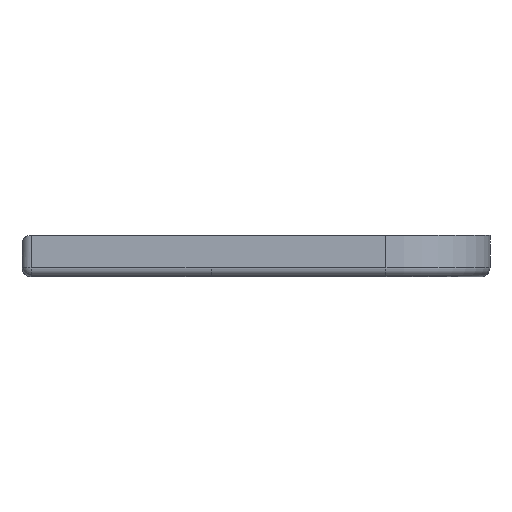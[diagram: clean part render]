
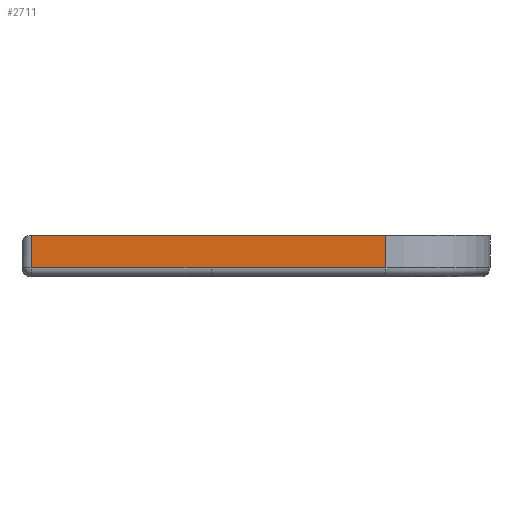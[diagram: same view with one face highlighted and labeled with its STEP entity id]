
A CAD part, left-side view. The second image highlights one B-rep face of the part: STEP entity #2711.
In plain terms, the highlighted planar face has unit normal (-1, 0, 0).
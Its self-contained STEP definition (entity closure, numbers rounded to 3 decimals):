
#127 = PLANE('',#128);
#128 = AXIS2_PLACEMENT_3D('',#129,#130,#131);
#129 = CARTESIAN_POINT('',(-57.5,30.5,2.5));
#130 = DIRECTION('',(0.,0.,-1.));
#131 = DIRECTION('',(1.,0.,0.));
#1158 = VERTEX_POINT('',#1159);
#1159 = CARTESIAN_POINT('',(-132.5,48.5,2.5));
#1185 = EDGE_CURVE('',#1158,#1186,#1188,.T.);
#1186 = VERTEX_POINT('',#1187);
#1187 = CARTESIAN_POINT('',(-132.5,11.,2.5));
#1188 = SURFACE_CURVE('',#1189,(#1193,#1200),.PCURVE_S1.);
#1189 = LINE('',#1190,#1191);
#1190 = CARTESIAN_POINT('',(-132.5,30.5,2.5));
#1191 = VECTOR('',#1192,1.);
#1192 = DIRECTION('',(0.,-1.,0.));
#1193 = PCURVE('',#127,#1194);
#1194 = DEFINITIONAL_REPRESENTATION('',(#1195),#1199);
#1195 = LINE('',#1196,#1197);
#1196 = CARTESIAN_POINT('',(-75.,0.));
#1197 = VECTOR('',#1198,1.);
#1198 = DIRECTION('',(0.,1.));
#1199 = ( GEOMETRIC_REPRESENTATION_CONTEXT(2) 
PARAMETRIC_REPRESENTATION_CONTEXT() REPRESENTATION_CONTEXT('2D SPACE',''
  ) );
#1200 = PCURVE('',#1201,#1206);
#1201 = PLANE('',#1202);
#1202 = AXIS2_PLACEMENT_3D('',#1203,#1204,#1205);
#1203 = CARTESIAN_POINT('',(-132.5,30.5,2.5));
#1204 = DIRECTION('',(1.,0.,-0.));
#1205 = DIRECTION('',(0.,0.,1.));
#1206 = DEFINITIONAL_REPRESENTATION('',(#1207),#1211);
#1207 = LINE('',#1208,#1209);
#1208 = CARTESIAN_POINT('',(0.,0.));
#1209 = VECTOR('',#1210,1.);
#1210 = DIRECTION('',(0.,1.));
#1211 = ( GEOMETRIC_REPRESENTATION_CONTEXT(2) 
PARAMETRIC_REPRESENTATION_CONTEXT() REPRESENTATION_CONTEXT('2D SPACE',''
  ) );
#1234 = CYLINDRICAL_SURFACE('',#1235,11.);
#1235 = AXIS2_PLACEMENT_3D('',#1236,#1237,#1238);
#1236 = CARTESIAN_POINT('',(-121.5,11.,8.093));
#1237 = DIRECTION('',(0.,0.,-1.));
#1238 = DIRECTION('',(1.,0.,0.));
#1918 = CYLINDRICAL_SURFACE('',#1919,1.);
#1919 = AXIS2_PLACEMENT_3D('',#1920,#1921,#1922);
#1920 = CARTESIAN_POINT('',(-131.5,30.5,-0.907));
#1921 = DIRECTION('',(0.,-1.,0.));
#1922 = DIRECTION('',(0.,0.,-1.));
#1946 = CYLINDRICAL_SURFACE('',#1947,1.);
#1947 = AXIS2_PLACEMENT_3D('',#1948,#1949,#1950);
#1948 = CARTESIAN_POINT('',(-131.5,30.5,-0.907));
#1949 = DIRECTION('',(0.,-1.,0.));
#1950 = DIRECTION('',(0.,0.,-1.));
#2711 = ADVANCED_FACE('',(#2712),#1201,.F.);
#2712 = FACE_BOUND('',#2713,.T.);
#2713 = EDGE_LOOP('',(#2714,#2715,#2743,#2766,#2789));
#2714 = ORIENTED_EDGE('',*,*,#1185,.F.);
#2715 = ORIENTED_EDGE('',*,*,#2716,.T.);
#2716 = EDGE_CURVE('',#1158,#2717,#2719,.T.);
#2717 = VERTEX_POINT('',#2718);
#2718 = CARTESIAN_POINT('',(-132.5,48.5,-0.907));
#2719 = SURFACE_CURVE('',#2720,(#2724,#2731),.PCURVE_S1.);
#2720 = LINE('',#2721,#2722);
#2721 = CARTESIAN_POINT('',(-132.5,48.5,2.5));
#2722 = VECTOR('',#2723,1.);
#2723 = DIRECTION('',(-0.,-0.,-1.));
#2724 = PCURVE('',#1201,#2725);
#2725 = DEFINITIONAL_REPRESENTATION('',(#2726),#2730);
#2726 = LINE('',#2727,#2728);
#2727 = CARTESIAN_POINT('',(0.,-18.));
#2728 = VECTOR('',#2729,1.);
#2729 = DIRECTION('',(-1.,0.));
#2730 = ( GEOMETRIC_REPRESENTATION_CONTEXT(2) 
PARAMETRIC_REPRESENTATION_CONTEXT() REPRESENTATION_CONTEXT('2D SPACE',''
  ) );
#2731 = PCURVE('',#2732,#2737);
#2732 = CYLINDRICAL_SURFACE('',#2733,1.);
#2733 = AXIS2_PLACEMENT_3D('',#2734,#2735,#2736);
#2734 = CARTESIAN_POINT('',(-131.5,48.5,0.));
#2735 = DIRECTION('',(0.,0.,1.));
#2736 = DIRECTION('',(1.,0.,-0.));
#2737 = DEFINITIONAL_REPRESENTATION('',(#2738),#2742);
#2738 = LINE('',#2739,#2740);
#2739 = CARTESIAN_POINT('',(3.142,2.5));
#2740 = VECTOR('',#2741,1.);
#2741 = DIRECTION('',(0.,-1.));
#2742 = ( GEOMETRIC_REPRESENTATION_CONTEXT(2) 
PARAMETRIC_REPRESENTATION_CONTEXT() REPRESENTATION_CONTEXT('2D SPACE',''
  ) );
#2743 = ORIENTED_EDGE('',*,*,#2744,.T.);
#2744 = EDGE_CURVE('',#2717,#2745,#2747,.T.);
#2745 = VERTEX_POINT('',#2746);
#2746 = CARTESIAN_POINT('',(-132.5,29.5,-0.907));
#2747 = SURFACE_CURVE('',#2748,(#2752,#2759),.PCURVE_S1.);
#2748 = LINE('',#2749,#2750);
#2749 = CARTESIAN_POINT('',(-132.5,30.5,-0.907));
#2750 = VECTOR('',#2751,1.);
#2751 = DIRECTION('',(0.,-1.,0.));
#2752 = PCURVE('',#1201,#2753);
#2753 = DEFINITIONAL_REPRESENTATION('',(#2754),#2758);
#2754 = LINE('',#2755,#2756);
#2755 = CARTESIAN_POINT('',(-3.407,0.));
#2756 = VECTOR('',#2757,1.);
#2757 = DIRECTION('',(0.,1.));
#2758 = ( GEOMETRIC_REPRESENTATION_CONTEXT(2) 
PARAMETRIC_REPRESENTATION_CONTEXT() REPRESENTATION_CONTEXT('2D SPACE',''
  ) );
#2759 = PCURVE('',#1946,#2760);
#2760 = DEFINITIONAL_REPRESENTATION('',(#2761),#2765);
#2761 = LINE('',#2762,#2763);
#2762 = CARTESIAN_POINT('',(4.712,0.));
#2763 = VECTOR('',#2764,1.);
#2764 = DIRECTION('',(0.,1.));
#2765 = ( GEOMETRIC_REPRESENTATION_CONTEXT(2) 
PARAMETRIC_REPRESENTATION_CONTEXT() REPRESENTATION_CONTEXT('2D SPACE',''
  ) );
#2766 = ORIENTED_EDGE('',*,*,#2767,.T.);
#2767 = EDGE_CURVE('',#2745,#2768,#2770,.T.);
#2768 = VERTEX_POINT('',#2769);
#2769 = CARTESIAN_POINT('',(-132.5,11.,-0.907));
#2770 = SURFACE_CURVE('',#2771,(#2775,#2782),.PCURVE_S1.);
#2771 = LINE('',#2772,#2773);
#2772 = CARTESIAN_POINT('',(-132.5,30.5,-0.907));
#2773 = VECTOR('',#2774,1.);
#2774 = DIRECTION('',(0.,-1.,0.));
#2775 = PCURVE('',#1201,#2776);
#2776 = DEFINITIONAL_REPRESENTATION('',(#2777),#2781);
#2777 = LINE('',#2778,#2779);
#2778 = CARTESIAN_POINT('',(-3.407,0.));
#2779 = VECTOR('',#2780,1.);
#2780 = DIRECTION('',(0.,1.));
#2781 = ( GEOMETRIC_REPRESENTATION_CONTEXT(2) 
PARAMETRIC_REPRESENTATION_CONTEXT() REPRESENTATION_CONTEXT('2D SPACE',''
  ) );
#2782 = PCURVE('',#1918,#2783);
#2783 = DEFINITIONAL_REPRESENTATION('',(#2784),#2788);
#2784 = LINE('',#2785,#2786);
#2785 = CARTESIAN_POINT('',(4.712,0.));
#2786 = VECTOR('',#2787,1.);
#2787 = DIRECTION('',(0.,1.));
#2788 = ( GEOMETRIC_REPRESENTATION_CONTEXT(2) 
PARAMETRIC_REPRESENTATION_CONTEXT() REPRESENTATION_CONTEXT('2D SPACE',''
  ) );
#2789 = ORIENTED_EDGE('',*,*,#2790,.F.);
#2790 = EDGE_CURVE('',#1186,#2768,#2791,.T.);
#2791 = SURFACE_CURVE('',#2792,(#2796,#2803),.PCURVE_S1.);
#2792 = LINE('',#2793,#2794);
#2793 = CARTESIAN_POINT('',(-132.5,11.,8.093));
#2794 = VECTOR('',#2795,1.);
#2795 = DIRECTION('',(0.,0.,-1.));
#2796 = PCURVE('',#1201,#2797);
#2797 = DEFINITIONAL_REPRESENTATION('',(#2798),#2802);
#2798 = LINE('',#2799,#2800);
#2799 = CARTESIAN_POINT('',(5.593,19.5));
#2800 = VECTOR('',#2801,1.);
#2801 = DIRECTION('',(-1.,0.));
#2802 = ( GEOMETRIC_REPRESENTATION_CONTEXT(2) 
PARAMETRIC_REPRESENTATION_CONTEXT() REPRESENTATION_CONTEXT('2D SPACE',''
  ) );
#2803 = PCURVE('',#1234,#2804);
#2804 = DEFINITIONAL_REPRESENTATION('',(#2805),#2809);
#2805 = LINE('',#2806,#2807);
#2806 = CARTESIAN_POINT('',(3.142,0.));
#2807 = VECTOR('',#2808,1.);
#2808 = DIRECTION('',(0.,1.));
#2809 = ( GEOMETRIC_REPRESENTATION_CONTEXT(2) 
PARAMETRIC_REPRESENTATION_CONTEXT() REPRESENTATION_CONTEXT('2D SPACE',''
  ) );
